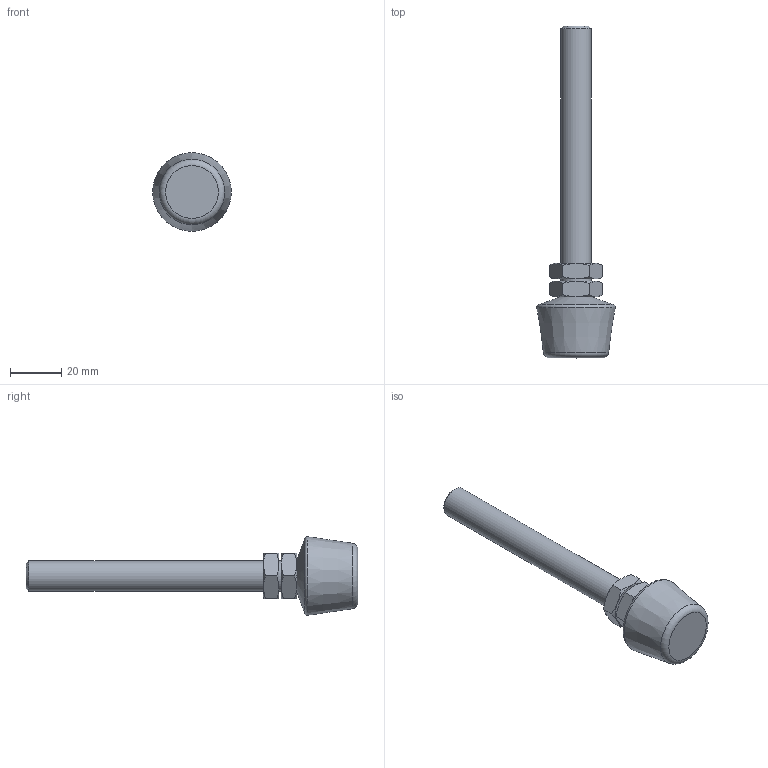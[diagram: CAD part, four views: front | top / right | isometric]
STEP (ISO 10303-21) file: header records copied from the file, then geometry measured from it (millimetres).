
FILE_DESCRIPTION( ( 'STEP AP203' ), '1' );
FILE_NAME( 'C:/Temp/Ganter_Step_05_03_2020/data/2_4/gn_708_1/gn_708_1_ni/Stainless Steel-Clamping bolt GN 708.1-M12-130-A-NI (0).stp', '2020-03-13T05:51:21', ( 'License CC BY-ND 4.0' ), ( 'CADENAS' ), ' ', 'PARTsolutions', ' ' );
FILE_SCHEMA( ( 'CONFIG_CONTROL_DESIGN' ) );
Length unit declared in the file: millimetre
Products named in the file (3): Stainless Steel-Clamping bolt GN 708.1-M12-130-A-NI (0); _Edelstahl-Andrueckschraube GN 708.1-M12-130-A-NI (0)-1; _Edelstahl-Andrueckschraube GN 708.1-M12-130-A-NI-2
Assembly tree (3 placements, depth 2):
  Stainless Steel-Clamping bolt GN 708.1-M12-130-A-NI (0)
    _Edelstahl-Andrueckschraube GN 708.1-M12-130-A-NI (0)-1
    _Edelstahl-Andrueckschraube GN 708.1-M12-130-A-NI-2  x2
Bounding box: 30.78 x 130 x 30.78 mm (x, y, z)
Volume: 28226.7 mm3; surface area: 8806.1 mm2
Topology: 3 solids, 3 shells, 54 faces, 111 edges, 63 vertices
Faces by surface type: cone 31, plane 18, cylinder 3, torus 2
Full cylindrical faces by diameter (mm): 10.106 x2, 12 x1
Entity records: 954 total; most frequent: CARTESIAN_POINT 260, DIRECTION 122, ORIENTED_EDGE 106, AXIS2_PLACEMENT_3D 58, EDGE_CURVE 53, EDGE_LOOP 42, VERTEX_POINT 36, FACE_OUTER_BOUND 35
